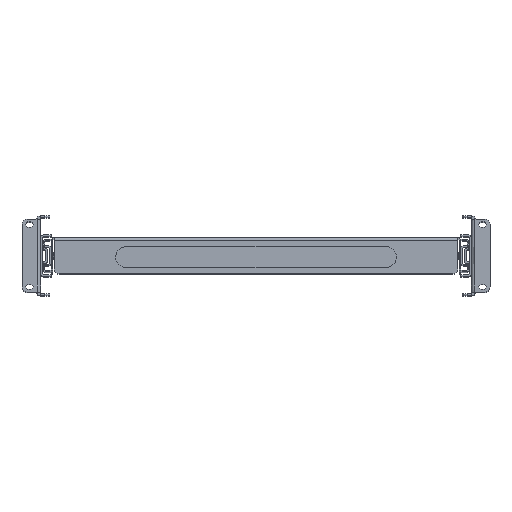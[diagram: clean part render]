
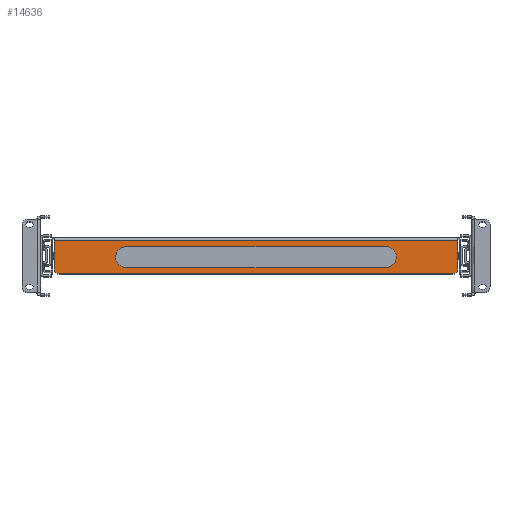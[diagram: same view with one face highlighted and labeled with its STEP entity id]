
A CAD part, top view. The second image highlights one B-rep face of the part: STEP entity #14636.
In plain terms, the highlighted free-form (B-spline) face has degree [1, 1] with [2, 2] control points.
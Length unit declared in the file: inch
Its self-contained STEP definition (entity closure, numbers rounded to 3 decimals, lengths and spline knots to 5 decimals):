
#10173=CARTESIAN_POINT('V232',(19.476,0.25,
   0.072));
#10174=VERTEX_POINT('V232',#10173);
#10180=CARTESIAN_POINT('V230',(19.226,0.,
   0.072));
#10181=VERTEX_POINT('V230',#10180);
#10182=CARTESIAN_POINT('E404',(19.226,0.,
   0.072));
#10183=CARTESIAN_POINT('E404',(19.476,0.,
   0.072));
#10184=CARTESIAN_POINT('E404',(19.476,0.25,
   0.072));
#10192=(BOUNDED_CURVE()B_SPLINE_CURVE(2,(#10182,#10183,#10184),
   .CIRCULAR_ARC.,.F.,.U.)B_SPLINE_CURVE_WITH_KNOTS((3,3),(0.0,
   5.45415),.UNSPECIFIED.)CURVE()
   GEOMETRIC_REPRESENTATION_ITEM()RATIONAL_B_SPLINE_CURVE((1.0,
   0.707,1.0))REPRESENTATION_ITEM('E404'));
#10193=EDGE_CURVE('E404',#10181,#10174,#10192,.T.);
#10234=CARTESIAN_POINT('V228',(0.33,0.,
   0.072));
#10235=VERTEX_POINT('V228',#10234);
#10241=CARTESIAN_POINT('V226',(0.08,0.25,
   0.072));
#10242=VERTEX_POINT('V226',#10241);
#10243=CARTESIAN_POINT('E394',(0.08,0.25,
   0.072));
#10244=CARTESIAN_POINT('E394',(0.08,0.,
   0.072));
#10245=CARTESIAN_POINT('E394',(0.33,0.,
   0.072));
#10253=(BOUNDED_CURVE()B_SPLINE_CURVE(2,(#10243,#10244,#10245),
   .CIRCULAR_ARC.,.F.,.U.)B_SPLINE_CURVE_WITH_KNOTS((3,3),(0.0,
   5.45415),.UNSPECIFIED.)CURVE()
   GEOMETRIC_REPRESENTATION_ITEM()RATIONAL_B_SPLINE_CURVE((1.0,
   0.707,1.0))REPRESENTATION_ITEM('E394'));
#10254=EDGE_CURVE('E394',#10242,#10235,#10253,.T.);
#14387=CARTESIAN_POINT('V123',(3.528,1.303,
   0.072));
#14388=VERTEX_POINT('V123',#14387);
#14394=CARTESIAN_POINT('V126',(3.528,0.303,
   0.072));
#14395=VERTEX_POINT('V126',#14394);
#14396=CARTESIAN_POINT('E164',(3.528,0.303,
   0.072));
#14397=CARTESIAN_POINT('E164',(3.028,0.303,
   0.072));
#14398=CARTESIAN_POINT('E164',(3.028,0.803,
   0.072));
#14399=CARTESIAN_POINT('E164',(3.028,1.303,
   0.072));
#14400=CARTESIAN_POINT('E164',(3.528,1.303,
   0.072));
#14408=(BOUNDED_CURVE()B_SPLINE_CURVE(2,(#14396,#14397,#14398,
   #14399,#14400),.CIRCULAR_ARC.,.F.,.U.)B_SPLINE_CURVE_WITH_KNOTS(
   (3,2,3),(0.0,0.5,1.0),.UNSPECIFIED.)CURVE()
   GEOMETRIC_REPRESENTATION_ITEM()RATIONAL_B_SPLINE_CURVE((1.0,
   0.707,1.0,0.707,1.0))REPRESENTATION_ITEM(
   'E164'));
#14409=EDGE_CURVE('E164',#14395,#14388,#14408,.T.);
#14432=CARTESIAN_POINT('V125',(16.028,0.303,
   0.072));
#14433=VERTEX_POINT('V125',#14432);
#14434=CARTESIAN_POINT('E163',(16.028,0.303,
   0.072));
#14435=CARTESIAN_POINT('E163',(3.528,0.303,
   0.072));
#14436=B_SPLINE_CURVE_WITH_KNOTS('E163',1,(#14434,#14435),
   .POLYLINE_FORM.,.F.,.U.,(2,2),(2.57326,
   9.54797),.UNSPECIFIED.);
#14437=EDGE_CURVE('E163',#14433,#14395,#14436,.T.);
#14483=CARTESIAN_POINT('V124',(16.028,1.303,
   0.072));
#14484=VERTEX_POINT('V124',#14483);
#14485=CARTESIAN_POINT('E162',(16.028,1.303,
   0.072));
#14486=CARTESIAN_POINT('E162',(16.528,1.303,
   0.072));
#14487=CARTESIAN_POINT('E162',(16.528,0.803,
   0.072));
#14488=CARTESIAN_POINT('E162',(16.528,0.303,
   0.072));
#14489=CARTESIAN_POINT('E162',(16.028,0.303,
   0.072));
#14497=(BOUNDED_CURVE()B_SPLINE_CURVE(2,(#14485,#14486,#14487,
   #14488,#14489),.CIRCULAR_ARC.,.F.,.U.)B_SPLINE_CURVE_WITH_KNOTS(
   (3,2,3),(0.0,0.5,1.0),.UNSPECIFIED.)CURVE()
   GEOMETRIC_REPRESENTATION_ITEM()RATIONAL_B_SPLINE_CURVE((1.0,
   0.707,1.0,0.707,1.0))REPRESENTATION_ITEM(
   'E162'));
#14498=EDGE_CURVE('E162',#14484,#14433,#14497,.T.);
#14519=CARTESIAN_POINT('E161',(3.528,1.303,
   0.072));
#14520=CARTESIAN_POINT('E161',(16.028,1.303,
   0.072));
#14521=B_SPLINE_CURVE_WITH_KNOTS('E161',1,(#14519,#14520),
   .POLYLINE_FORM.,.F.,.U.,(2,2),(2.57326,
   9.54797),.UNSPECIFIED.);
#14522=EDGE_CURVE('E161',#14388,#14484,#14521,.T.);
#14551=CARTESIAN_POINT('V122',(0.08,1.598,
   0.072));
#14552=VERTEX_POINT('V122',#14551);
#14566=CARTESIAN_POINT('V121',(19.476,1.598,
   0.072));
#14567=VERTEX_POINT('V121',#14566);
#14568=CARTESIAN_POINT('E159',(0.08,1.598,
   0.072));
#14569=CARTESIAN_POINT('E159',(19.476,1.598,
   0.072));
#14570=QUASI_UNIFORM_CURVE('E159',1,(#14568,#14569),.POLYLINE_FORM.,
   .F.,.U.);
#14571=EDGE_CURVE('E159',#14552,#14567,#14570,.T.);
#14595=CARTESIAN_POINT('E157',(0.33,0.,
   0.072));
#14596=CARTESIAN_POINT('E157',(19.226,0.,
   0.072));
#14597=B_SPLINE_CURVE_WITH_KNOTS('E157',1,(#14595,#14596),
   .POLYLINE_FORM.,.F.,.U.,(2,2),(0.78885,
   11.33239),.UNSPECIFIED.);
#14598=EDGE_CURVE('E157',#10235,#10181,#14597,.T.);
#14609=CARTESIAN_POINT('F43',(20.63976,1.69388,
   0.072));
#14610=CARTESIAN_POINT('F43',(-1.08376,1.69388,
   0.072));
#14611=CARTESIAN_POINT('F43',(20.63976,-0.09588,
   0.072));
#14612=CARTESIAN_POINT('F43',(-1.08376,-0.09588,
   0.072));
#14613=B_SPLINE_SURFACE_WITH_KNOTS('F43',1,1,((#14609,#14611),(
   #14610,#14612)),.PLANE_SURF.,.F.,.F.,.U.,(2,2),(2,2),(0.0,
   12.12123),(0.0,1.0),.UNSPECIFIED.);
#14614=ORIENTED_EDGE('E404',*,*,#10193,.T.);
#14615=CARTESIAN_POINT('E158',(19.476,0.25,
   0.072));
#14616=CARTESIAN_POINT('E158',(19.476,1.598,
   0.072));
#14617=B_SPLINE_CURVE_WITH_KNOTS('E158',1,(#14615,#14616),
   .POLYLINE_FORM.,.F.,.U.,(2,2),(0.1504,
   0.90357),.UNSPECIFIED.);
#14618=EDGE_CURVE('E158',#10174,#14567,#14617,.T.);
#14619=ORIENTED_EDGE('E158',*,*,#14618,.T.);
#14620=ORIENTED_EDGE('E159',*,*,#14571,.F.);
#14621=CARTESIAN_POINT('E160',(0.08,1.598,
   0.072));
#14622=CARTESIAN_POINT('E160',(0.08,0.25,
   0.072));
#14623=B_SPLINE_CURVE_WITH_KNOTS('E160',1,(#14621,#14622),
   .POLYLINE_FORM.,.F.,.U.,(2,2),(0.05357,
   0.80675),.UNSPECIFIED.);
#14624=EDGE_CURVE('E160',#14552,#10242,#14623,.T.);
#14625=ORIENTED_EDGE('E160',*,*,#14624,.T.);
#14626=ORIENTED_EDGE('E394',*,*,#10254,.T.);
#14627=ORIENTED_EDGE('E157',*,*,#14598,.T.);
#14628=EDGE_LOOP('F43',(#14614,#14619,#14620,#14625,#14626,#14627)
   );
#14629=FACE_OUTER_BOUND('F43',#14628,.T.);
#14630=ORIENTED_EDGE('E161',*,*,#14522,.T.);
#14631=ORIENTED_EDGE('E162',*,*,#14498,.T.);
#14632=ORIENTED_EDGE('E163',*,*,#14437,.T.);
#14633=ORIENTED_EDGE('E164',*,*,#14409,.T.);
#14634=EDGE_LOOP('F43',(#14630,#14631,#14632,#14633));
#14635=FACE_BOUND('F43',#14634,.T.);
#14636=ADVANCED_FACE('F43',(#14629,#14635),#14613,.T.);
